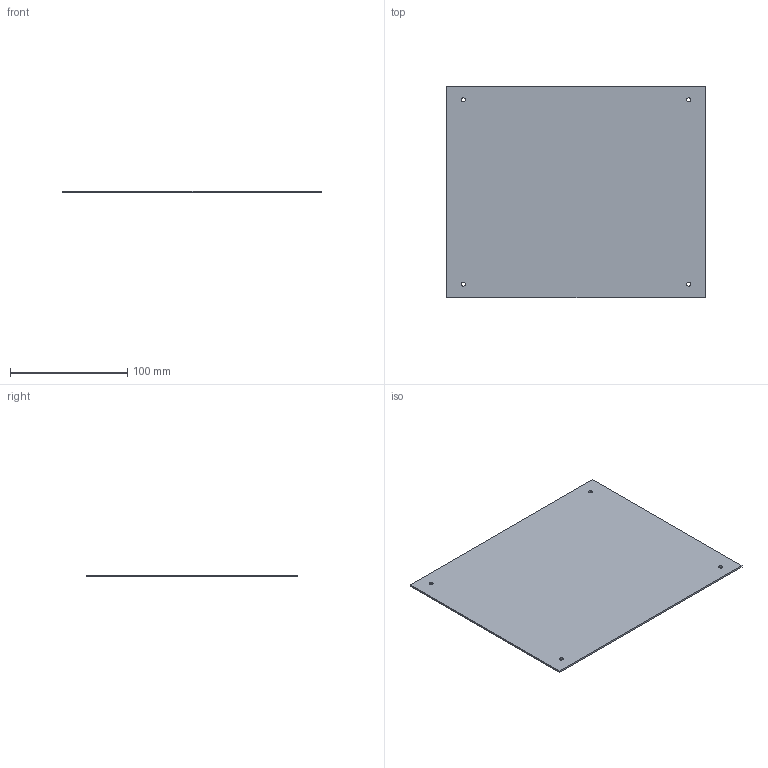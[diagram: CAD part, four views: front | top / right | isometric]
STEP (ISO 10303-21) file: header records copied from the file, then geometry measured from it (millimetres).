
FILE_DESCRIPTION(('Open CASCADE Model'),'2;1');
FILE_NAME('Open CASCADE Shape Model','2026-10-28T07:21:37',('Author'),( 'Open CASCADE'),'Open CASCADE STEP processor 7.8','Open CASCADE 7.8' ,'Unknown');
FILE_SCHEMA(('AUTOMOTIVE_DESIGN { 1 0 10303 214 1 1 1 1 }'));
Length unit declared in the file: millimetre
Products named in the file (1): Open CASCADE STEP translator 7.8 7
Bounding box: 220 x 180 x 1.5 mm (x, y, z)
Volume: 59345.5 mm3; surface area: 80391.5 mm2
Topology: 1 solids, 1 shells, 10 faces, 24 edges, 16 vertices
Faces by surface type: plane 6, cylinder 4
Full cylindrical faces by diameter (mm): 3.4 x4
Entity records: 634 total; most frequent: DIRECTION 102, CARTESIAN_POINT 99, LINE 56, VECTOR 56, ORIENTED_EDGE 48, PCURVE 48, DEFINITIONAL_REPRESENTATION 48, EDGE_CURVE 24
